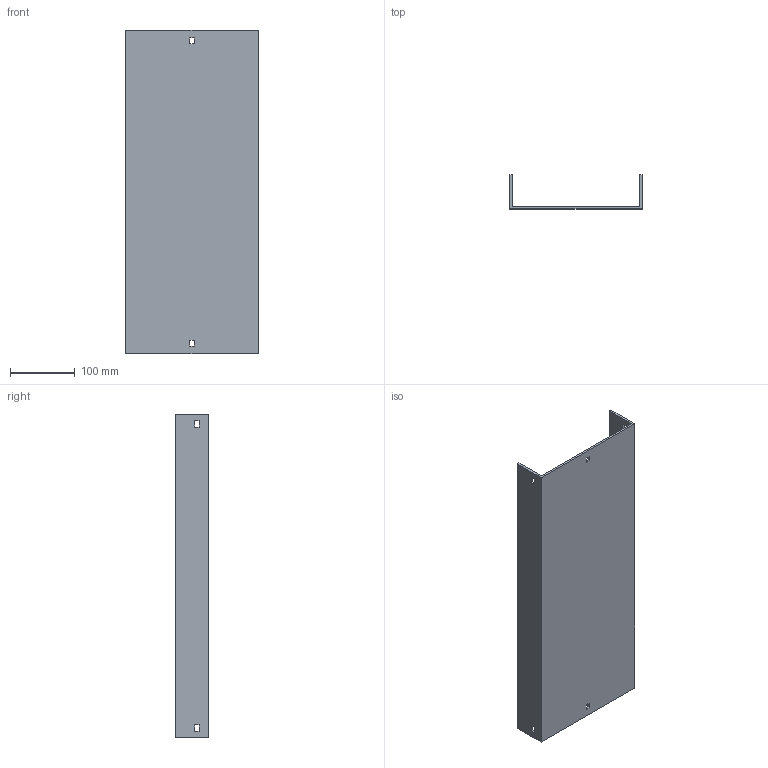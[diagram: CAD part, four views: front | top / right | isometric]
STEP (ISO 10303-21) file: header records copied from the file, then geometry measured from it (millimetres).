
FILE_DESCRIPTION (( 'STEP AP214' ), '1' );
FILE_NAME ('03F7B200.step', '2025-02-21T13:24:45', ( '' ), ( '' ), 'SwSTEP 2.0', 'SolidWorks 2023', '' );
FILE_SCHEMA (( 'AUTOMOTIVE_DESIGN' ));
Length unit declared in the file: millimetre
Products named in the file (1): 03F7B200
Bounding box: 204 x 52 x 500 mm (x, y, z)
Volume: 525360.5 mm3; surface area: 306506 mm2
Topology: 1 solids, 1 shells, 34 faces, 96 edges, 64 vertices
Faces by surface type: plane 34
Entity records: 1127 total; most frequent: CARTESIAN_POINT 195, ORIENTED_EDGE 192, DIRECTION 166, VECTOR 96, EDGE_CURVE 96, LINE 96, VERTEX_POINT 64, EDGE_LOOP 46
